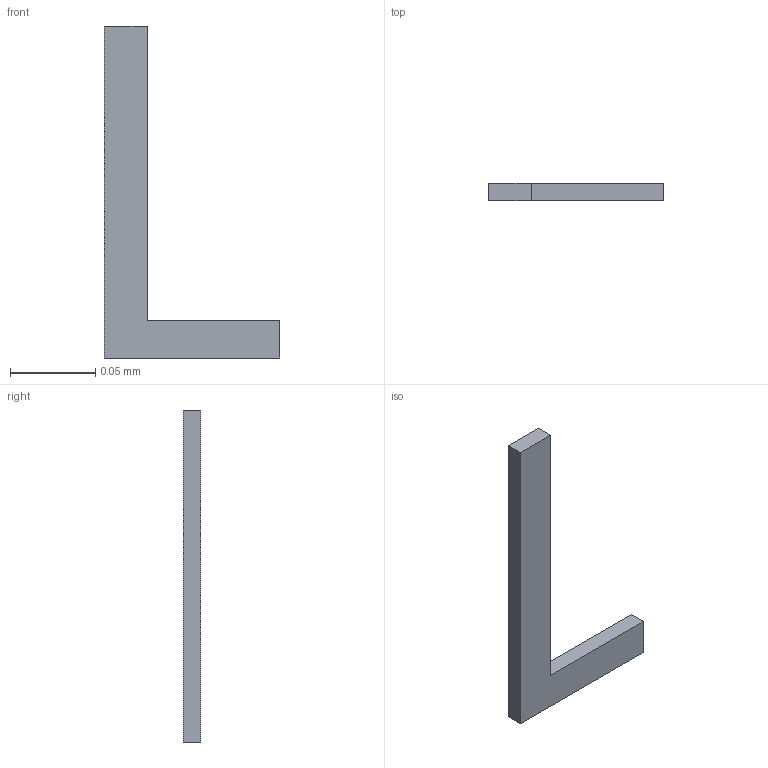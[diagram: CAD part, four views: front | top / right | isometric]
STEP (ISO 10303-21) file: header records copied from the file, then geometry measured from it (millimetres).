
FILE_DESCRIPTION(/* description */ ('STEP AP242 Edition 2','CAx-IF Rec.Pracs.---Representation and Presentation of Product Manufacturing Information (PMI)---4.0---2014-10-13','CAx-IF Rec.Pracs.---3D Tessellated Geometry---0.4---2014-09-14','2;1','CAx-IF Rec.Pracs.---User Defined Attributes---1.5---2016-08-15'),/* implementation_level */ '2;1');
FILE_NAME(/* name */ 'Assembly 1 - SW-TH_3P-L5.8_WSGT-3P-CC~SW-TH_3P-L5.8_WSGT-3P-CC~nxQB (1)',/* time_stamp */ '2026-04-02T09:55:27Z',/* author */ (''),/* organization */ (''),/* preprocessor_version */ 'ST-DEVELOPER v20',/* originating_system */ 'ONSHAPE BY PTC INC, 1.212',/* authorisation */ ' ');
FILE_SCHEMA (('AP242_MANAGED_MODEL_BASED_3D_ENGINEERING_MIM_LF { 1 0 10303 442 3 1 4 }'));
Length unit declared in the file: metre
Products named in the file (1): SW-TH_3P-L5.8_WSGT-3P-CC~SW-TH_3P-L5.8_WSGT-3P-CC~nxQB
Bounding box: 0.1 x 0.01 x 0.19 mm (x, y, z)
Volume: 0 mm3; surface area: 0 mm2
Topology: 1 solids, 1 shells, 8 faces, 18 edges, 12 vertices
Faces by surface type: plane 8
Entity records: 301 total; most frequent: CARTESIAN_POINT 39, ORIENTED_EDGE 36, DIRECTION 36, EDGE_CURVE 18, LINE 18, VECTOR 18, VERTEX_POINT 12, PRESENTATION_STYLE_ASSIGNMENT 9
